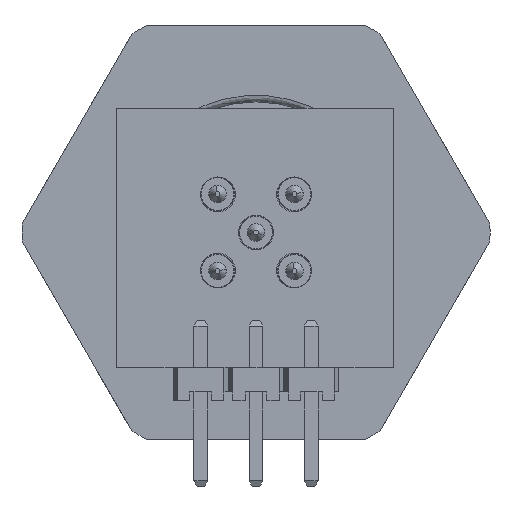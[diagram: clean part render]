
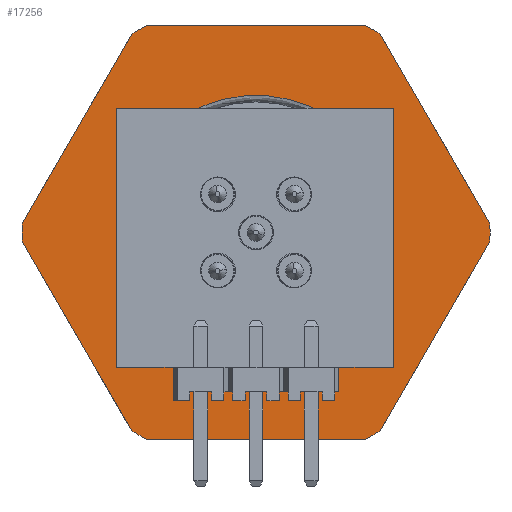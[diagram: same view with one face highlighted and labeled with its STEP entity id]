
A CAD part, front view. The second image highlights one B-rep face of the part: STEP entity #17256.
In plain terms, the highlighted planar face has unit normal (0, -1, 0).
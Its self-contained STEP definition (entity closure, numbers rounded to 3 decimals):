
#149 = CARTESIAN_POINT ( 'NONE',  ( 8.156, -3.482, 1.625 ) ) ;
#290 = EDGE_CURVE ( 'NONE', #22144, #13561, #5317, .T. ) ;
#441 = CARTESIAN_POINT ( 'NONE',  ( 10.581, -3.482, -7.875 ) ) ;
#898 = EDGE_CURVE ( 'NONE', #4308, #22144, #16240, .T. ) ;
#1151 = CARTESIAN_POINT ( 'NONE',  ( -3.175, -3.482, -7.875 ) ) ;
#1268 = DIRECTION ( 'NONE',  ( 0., -1., 0. ) ) ;
#1306 = DIRECTION ( 'NONE',  ( -0.5, 0., 0.866 ) ) ;
#1359 = CARTESIAN_POINT ( 'NONE',  ( 1.856, -3.482, 1.625 ) ) ;
#1431 = PLANE ( 'NONE',  #29824 ) ;
#1583 = VECTOR ( 'NONE', #24624, 1000. ) ;
#2169 = CIRCLE ( 'NONE', #23556, 10.75 ) ;
#2554 = DIRECTION ( 'NONE',  ( 0., -1., 0. ) ) ;
#2607 =( BOUNDED_CURVE ( )  B_SPLINE_CURVE ( 3, ( #19684, #26960, #12553, #17479 ),
 .UNSPECIFIED., .F., .F. ) 
 B_SPLINE_CURVE_WITH_KNOTS ( ( 4, 4 ),
 ( 0., 0.5 ),
 .UNSPECIFIED. ) 
 CURVE ( )  GEOMETRIC_REPRESENTATION_ITEM ( )  RATIONAL_B_SPLINE_CURVE ( ( 1., 0.333, 0.333, 1. ) ) 
 REPRESENTATION_ITEM ( '' )  );
#2738 = CIRCLE ( 'NONE', #5615, 10.75 ) ;
#3053 = ORIENTED_EDGE ( 'NONE', *, *, #4320, .T. ) ;
#3222 = VECTOR ( 'NONE', #1306, 1000. ) ;
#3991 = DIRECTION ( 'NONE',  ( 0.5, 0., -0.866 ) ) ;
#4060 = ORIENTED_EDGE ( 'NONE', *, *, #19065, .T. ) ;
#4281 = LINE ( 'NONE', #441, #22757 ) ;
#4308 = VERTEX_POINT ( 'NONE', #17257 ) ;
#4320 = EDGE_CURVE ( 'NONE', #26973, #23963, #9332, .T. ) ;
#4735 = ORIENTED_EDGE ( 'NONE', *, *, #23633, .T. ) ;
#5317 = LINE ( 'NONE', #5654, #1583 ) ;
#5450 = EDGE_CURVE ( 'NONE', #13071, #30919, #6258, .T. ) ;
#5615 = AXIS2_PLACEMENT_3D ( 'NONE', #26885, #2554, #14573 ) ;
#5654 = CARTESIAN_POINT ( 'NONE',  ( 7.568, -3.482, -7.482 ) ) ;
#5840 = EDGE_CURVE ( 'NONE', #30919, #17573, #14529, .T. ) ;
#6258 = LINE ( 'NONE', #20381, #3222 ) ;
#6873 = CARTESIAN_POINT ( 'NONE',  ( 12.599, -3.482, 2.018 ) ) ;
#6971 = VERTEX_POINT ( 'NONE', #18823 ) ;
#7428 = VECTOR ( 'NONE', #20184, 1000. ) ;
#7565 = DIRECTION ( 'NONE',  ( 0., 0., -1. ) ) ;
#7656 = DIRECTION ( 'NONE',  ( 0., -1., 0. ) ) ;
#7712 = DIRECTION ( 'NONE',  ( 0., 0., -1. ) ) ;
#7951 = VERTEX_POINT ( 'NONE', #149 ) ;
#8341 = EDGE_CURVE ( 'NONE', #22853, #30534, #2169, .T. ) ;
#8350 = CARTESIAN_POINT ( 'NONE',  ( -3.855, -3.482, 10.732 ) ) ;
#8693 = CARTESIAN_POINT ( 'NONE',  ( 1.856, -3.482, 1.625 ) ) ;
#9332 = CIRCLE ( 'NONE', #23469, 10.75 ) ;
#9362 = EDGE_LOOP ( 'NONE', ( #4735, #4060, #9961, #3053, #10096, #11818, #29310, #28560, #25070, #26505, #26084, #28500 ) ) ;
#9959 = DIRECTION ( 'NONE',  ( 0., -1., 0. ) ) ;
#9961 = ORIENTED_EDGE ( 'NONE', *, *, #24674, .T. ) ;
#10063 = CIRCLE ( 'NONE', #13803, 10.75 ) ;
#10096 = ORIENTED_EDGE ( 'NONE', *, *, #18110, .T. ) ;
#10525 = CARTESIAN_POINT ( 'NONE',  ( -3.175, -3.482, 11.125 ) ) ;
#10669 = DIRECTION ( 'NONE',  ( 0., 0., -1. ) ) ;
#11642 = CARTESIAN_POINT ( 'NONE',  ( -3.855, -3.482, 10.732 ) ) ;
#11818 = ORIENTED_EDGE ( 'NONE', *, *, #898, .T. ) ;
#11950 = DIRECTION ( 'NONE',  ( -0.5, 0., -0.866 ) ) ;
#12017 = VERTEX_POINT ( 'NONE', #12547 ) ;
#12547 = CARTESIAN_POINT ( 'NONE',  ( -8.886, -3.482, 2.018 ) ) ;
#12553 = CARTESIAN_POINT ( 'NONE',  ( -4.444, -3.482, 14.225 ) ) ;
#12674 = FACE_BOUND ( 'NONE', #14764, .T. ) ;
#12690 = DIRECTION ( 'NONE',  ( 1., 0., 0. ) ) ;
#13071 = VERTEX_POINT ( 'NONE', #6873 ) ;
#13451 = DIRECTION ( 'NONE',  ( 0., -1., 0. ) ) ;
#13542 = EDGE_CURVE ( 'NONE', #7951, #6971, #2607, .T. ) ;
#13561 = VERTEX_POINT ( 'NONE', #24618 ) ;
#13803 = AXIS2_PLACEMENT_3D ( 'NONE', #1359, #15702, #10669 ) ;
#13985 = CARTESIAN_POINT ( 'NONE',  ( 8.156, -3.482, -10.975 ) ) ;
#14373 = ORIENTED_EDGE ( 'NONE', *, *, #31125, .F. ) ;
#14529 = CIRCLE ( 'NONE', #17089, 10.75 ) ;
#14573 = DIRECTION ( 'NONE',  ( 0., 0., -1. ) ) ;
#14594 = LINE ( 'NONE', #22705, #7428 ) ;
#14764 = EDGE_LOOP ( 'NONE', ( #29271, #14373 ) ) ;
#15229 = CARTESIAN_POINT ( 'NONE',  ( 6.888, -3.482, 11.125 ) ) ;
#15317 = LINE ( 'NONE', #11642, #19848 ) ;
#15501 = CARTESIAN_POINT ( 'NONE',  ( -8.886, -3.482, 1.232 ) ) ;
#15620 = LINE ( 'NONE', #15501, #17894 ) ;
#15674 = CARTESIAN_POINT ( 'NONE',  ( -4.444, -3.482, -10.975 ) ) ;
#15702 = DIRECTION ( 'NONE',  ( 0., -1., 0. ) ) ;
#16240 = CIRCLE ( 'NONE', #29836, 10.75 ) ;
#16434 = EDGE_CURVE ( 'NONE', #17573, #22853, #14594, .T. ) ;
#16688 = CARTESIAN_POINT ( 'NONE',  ( -8.886, -3.482, 1.232 ) ) ;
#17089 = AXIS2_PLACEMENT_3D ( 'NONE', #19722, #9959, #7712 ) ;
#17256 = ADVANCED_FACE ( 'NONE', ( #29619, #12674 ), #1431, .T. ) ;
#17257 = CARTESIAN_POINT ( 'NONE',  ( 6.888, -3.482, -7.875 ) ) ;
#17479 = CARTESIAN_POINT ( 'NONE',  ( -4.444, -3.482, 1.625 ) ) ;
#17573 = VERTEX_POINT ( 'NONE', #15229 ) ;
#17894 = VECTOR ( 'NONE', #3991, 1000. ) ;
#18110 = EDGE_CURVE ( 'NONE', #23963, #4308, #4281, .T. ) ;
#18166 = DIRECTION ( 'NONE',  ( 0., -1., 0. ) ) ;
#18823 = CARTESIAN_POINT ( 'NONE',  ( -4.444, -3.482, 1.625 ) ) ;
#18937 = VERTEX_POINT ( 'NONE', #16688 ) ;
#19065 = EDGE_CURVE ( 'NONE', #12017, #18937, #2738, .T. ) ;
#19684 = CARTESIAN_POINT ( 'NONE',  ( 8.156, -3.482, 1.625 ) ) ;
#19722 = CARTESIAN_POINT ( 'NONE',  ( 1.856, -3.482, 1.625 ) ) ;
#19848 = VECTOR ( 'NONE', #11950, 1000. ) ;
#20184 = DIRECTION ( 'NONE',  ( -1., 0., 0. ) ) ;
#20191 = CARTESIAN_POINT ( 'NONE',  ( -4.444, -3.482, 1.625 ) ) ;
#20381 = CARTESIAN_POINT ( 'NONE',  ( 12.599, -3.482, 2.018 ) ) ;
#20651 = DIRECTION ( 'NONE',  ( 0., 0., -1. ) ) ;
#22144 = VERTEX_POINT ( 'NONE', #26415 ) ;
#22458 =( BOUNDED_CURVE ( )  B_SPLINE_CURVE ( 3, ( #20191, #15674, #13985, #28308 ),
 .UNSPECIFIED., .F., .F. ) 
 B_SPLINE_CURVE_WITH_KNOTS ( ( 4, 4 ),
 ( 0.5, 1. ),
 .UNSPECIFIED. ) 
 CURVE ( )  GEOMETRIC_REPRESENTATION_ITEM ( )  RATIONAL_B_SPLINE_CURVE ( ( 1., 0.333, 0.333, 1. ) ) 
 REPRESENTATION_ITEM ( '' )  );
#22705 = CARTESIAN_POINT ( 'NONE',  ( 10.581, -3.482, 11.125 ) ) ;
#22757 = VECTOR ( 'NONE', #12690, 1000. ) ;
#22853 = VERTEX_POINT ( 'NONE', #10525 ) ;
#23469 = AXIS2_PLACEMENT_3D ( 'NONE', #27045, #7656, #7565 ) ;
#23556 = AXIS2_PLACEMENT_3D ( 'NONE', #8693, #18166, #30586 ) ;
#23633 = EDGE_CURVE ( 'NONE', #30534, #12017, #15317, .T. ) ;
#23954 = EDGE_CURVE ( 'NONE', #13561, #13071, #10063, .T. ) ;
#23963 = VERTEX_POINT ( 'NONE', #1151 ) ;
#24618 = CARTESIAN_POINT ( 'NONE',  ( 12.599, -3.482, 1.232 ) ) ;
#24624 = DIRECTION ( 'NONE',  ( 0.5, 0., 0.866 ) ) ;
#24635 = CARTESIAN_POINT ( 'NONE',  ( 7.568, -3.482, 10.732 ) ) ;
#24674 = EDGE_CURVE ( 'NONE', #18937, #26973, #15620, .T. ) ;
#25070 = ORIENTED_EDGE ( 'NONE', *, *, #5450, .T. ) ;
#25629 = CARTESIAN_POINT ( 'NONE',  ( 1.856, -3.482, 1.625 ) ) ;
#26084 = ORIENTED_EDGE ( 'NONE', *, *, #16434, .T. ) ;
#26415 = CARTESIAN_POINT ( 'NONE',  ( 7.568, -3.482, -7.482 ) ) ;
#26505 = ORIENTED_EDGE ( 'NONE', *, *, #5840, .T. ) ;
#26885 = CARTESIAN_POINT ( 'NONE',  ( 1.856, -3.482, 1.625 ) ) ;
#26960 = CARTESIAN_POINT ( 'NONE',  ( 8.156, -3.482, 14.225 ) ) ;
#26973 = VERTEX_POINT ( 'NONE', #28585 ) ;
#27045 = CARTESIAN_POINT ( 'NONE',  ( 1.856, -3.482, 1.625 ) ) ;
#27873 = CARTESIAN_POINT ( 'NONE',  ( 10.581, -3.482, 1.625 ) ) ;
#28308 = CARTESIAN_POINT ( 'NONE',  ( 8.156, -3.482, 1.625 ) ) ;
#28500 = ORIENTED_EDGE ( 'NONE', *, *, #8341, .T. ) ;
#28560 = ORIENTED_EDGE ( 'NONE', *, *, #23954, .T. ) ;
#28585 = CARTESIAN_POINT ( 'NONE',  ( -3.855, -3.482, -7.482 ) ) ;
#29271 = ORIENTED_EDGE ( 'NONE', *, *, #13542, .F. ) ;
#29310 = ORIENTED_EDGE ( 'NONE', *, *, #290, .T. ) ;
#29619 = FACE_OUTER_BOUND ( 'NONE', #9362, .T. ) ;
#29824 = AXIS2_PLACEMENT_3D ( 'NONE', #27873, #13451, #30301 ) ;
#29836 = AXIS2_PLACEMENT_3D ( 'NONE', #25629, #1268, #20651 ) ;
#30301 = DIRECTION ( 'NONE',  ( 0., 0., -1. ) ) ;
#30534 = VERTEX_POINT ( 'NONE', #8350 ) ;
#30586 = DIRECTION ( 'NONE',  ( 0., 0., -1. ) ) ;
#30919 = VERTEX_POINT ( 'NONE', #24635 ) ;
#31125 = EDGE_CURVE ( 'NONE', #6971, #7951, #22458, .T. ) ;
